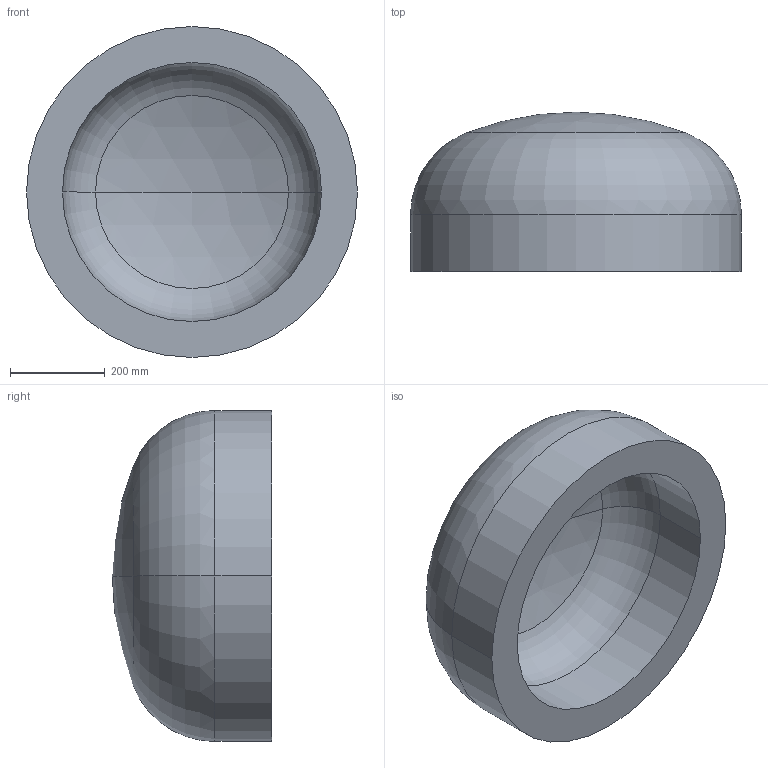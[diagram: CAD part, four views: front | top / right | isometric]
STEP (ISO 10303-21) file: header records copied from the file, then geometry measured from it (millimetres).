
FILE_DESCRIPTION (( 'STEP AP203' ), '1' );
FILE_NAME ('DIN 28013 Korbbogenform_-_Boden DIN 28013 - 700 x 120 - I - s=76.step', '2016-07-01T08:10:28', ( '' ), ( '' ), 'SwSTEP 2.0', 'SolidWorks 2013', '' );
FILE_SCHEMA (( 'CONFIG_CONTROL_DESIGN' ));
Length unit declared in the file: millimetre
Products named in the file (1): DIN 28013 Korbbogenform_-_Boden DIN 28013 - 700 x 120 - I - s=76
Bounding box: 700 x 336.95 x 700 mm (x, y, z)
Volume: 53475347.7 mm3; surface area: 1568330 mm2
Topology: 1 solids, 1 shells, 13 faces, 24 edges, 14 vertices
Faces by surface type: torus 4, cylinder 4, sphere 4, plane 1
Entity records: 407 total; most frequent: DIRECTION 72, CARTESIAN_POINT 52, ORIENTED_EDGE 48, AXIS2_PLACEMENT_3D 34, EDGE_CURVE 24, CIRCLE 20, EDGE_LOOP 14, VERTEX_POINT 14
